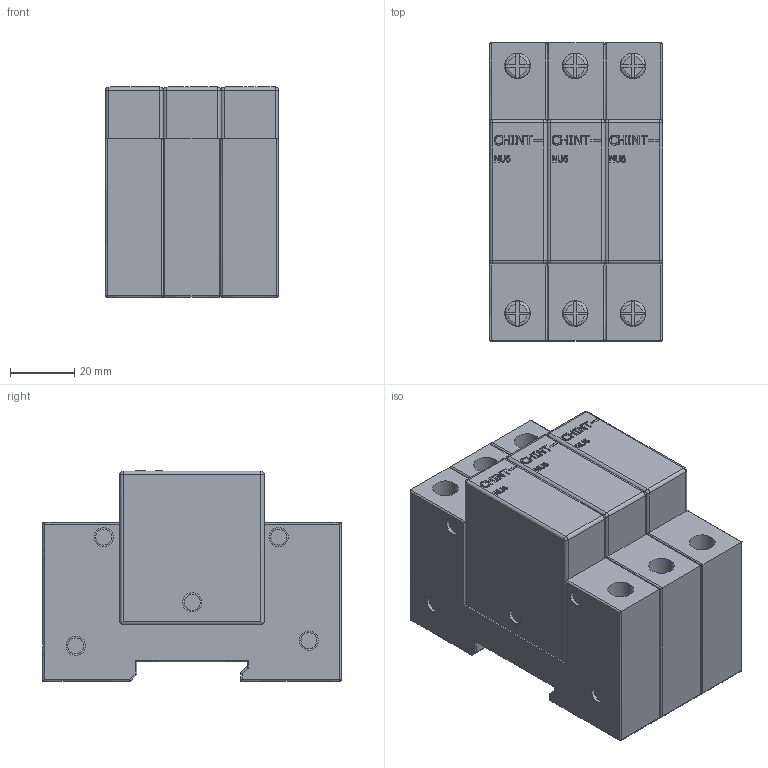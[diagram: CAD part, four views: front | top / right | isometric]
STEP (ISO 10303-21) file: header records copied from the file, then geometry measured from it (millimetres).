
FILE_DESCRIPTION(/* description */ (''),/* implementation_level */ '2;1');
FILE_NAME(/* name */ 'D:\CHINT\NU6\Имп. ограничитель NU6 40kA 3P (CHINT).stp',/* time_stamp */ '2017-09-30T15:56:45+04:00',/* author */ ('RSagdiev'),/* organization */ (''),/* preprocessor_version */ 'ST-DEVELOPER v16.5',/* originating_system */ 'Autodesk Inventor 2017',/* authorisation */ '');
FILE_SCHEMA (('AUTOMOTIVE_DESIGN { 1 0 10303 214 3 1 1 }'));
Length unit declared in the file: millimetre
Products named in the file (1): Имп. \X2\043E043304400430043D04380447
043804420435043B044C\X0\ NU6 40kA 3P (CHINT)
Bounding box: 54 x 93 x 65.6 mm (x, y, z)
Volume: 273900.8 mm3; surface area: 64285.6 mm2
Topology: 42 solids, 42 shells, 876 faces, 2055 edges, 1320 vertices
Faces by surface type: plane 507, bspline 177, cylinder 174, sphere 12, torus 6
Full cylindrical faces by diameter (mm): 5 x30, 6 x57, 8 x12
Entity records: 27302 total; most frequent: CARTESIAN_POINT 8356, ORIENTED_EDGE 3876, DIRECTION 3404, EDGE_CURVE 1938, VERTEX_POINT 1314, LINE 1230, VECTOR 1230, EDGE_LOOP 1104
